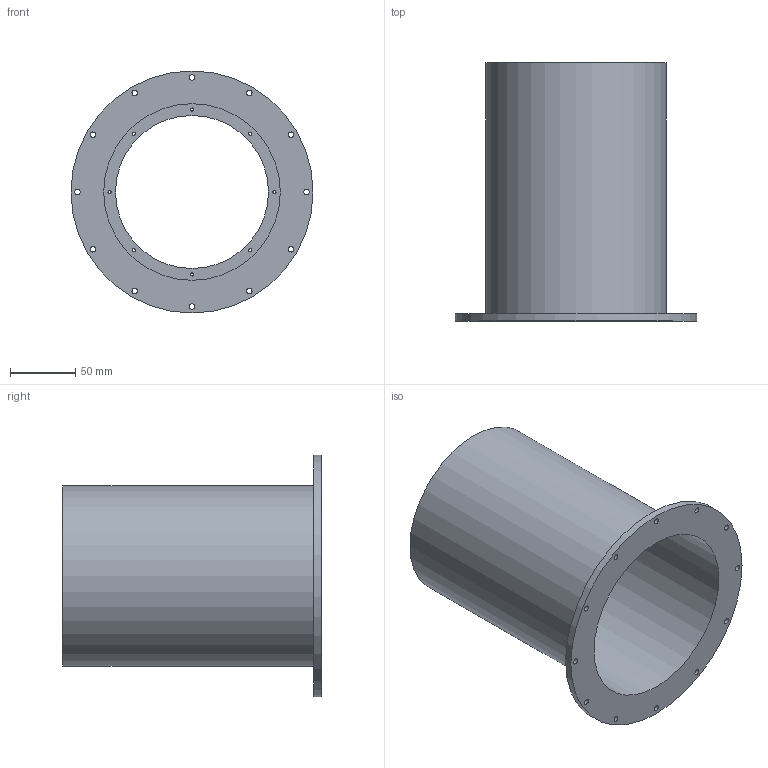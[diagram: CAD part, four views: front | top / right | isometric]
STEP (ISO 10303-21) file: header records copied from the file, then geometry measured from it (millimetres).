
FILE_DESCRIPTION(/* description */ (''),/* implementation_level */ '2;1');
FILE_NAME(/* name */ '40K shield.stp',/* time_stamp */ '2026-05-15T16:12:24+08:00',/* author */ ('32769'),/* organization */ (''),/* preprocessor_version */ 'ST-DEVELOPER v20',/* originating_system */ 'Autodesk Inventor 2025',/* authorisation */ '');
FILE_SCHEMA (('AUTOMOTIVE_DESIGN { 1 0 10303 214 3 1 1 }'));
Length unit declared in the file: millimetre
Products named in the file (1): 40K shield
Bounding box: 185 x 197.5 x 185 mm (x, y, z)
Volume: 208694.4 mm3; surface area: 203022.3 mm2
Topology: 1 solids, 1 shells, 28 faces, 82 edges, 58 vertices
Faces by surface type: cylinder 24, plane 4
Full cylindrical faces by diameter (mm): 2.459 x8, 4.3 x12, 117 x1, 135 x1, 138 x1, 185 x1
Entity records: 1095 total; most frequent: DIRECTION 198, CARTESIAN_POINT 159, ORIENTED_EDGE 144, AXIS2_PLACEMENT_3D 87, EDGE_LOOP 72, EDGE_CURVE 72, CIRCLE 58, VERTEX_POINT 48
